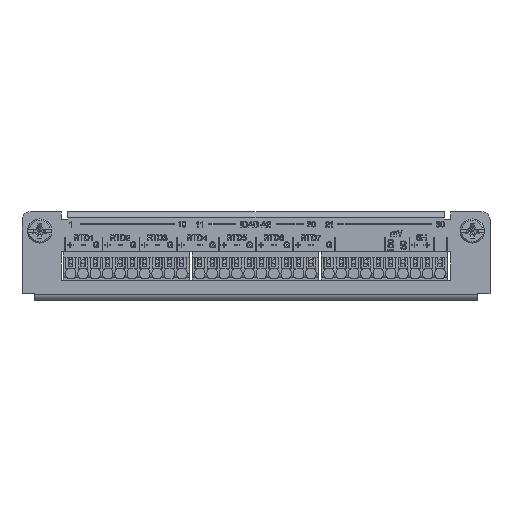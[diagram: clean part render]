
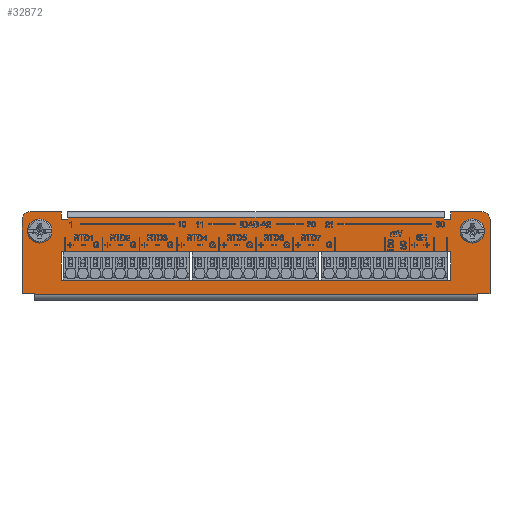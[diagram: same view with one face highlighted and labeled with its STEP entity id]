
A CAD part, top view. The second image highlights one B-rep face of the part: STEP entity #32872.
In plain terms, the highlighted planar face has unit normal (0, 0, 1) as drawn and (0, 1, 0) by its records, which use the part's own axes.
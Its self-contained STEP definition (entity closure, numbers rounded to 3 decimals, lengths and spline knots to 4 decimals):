
#1456=FACE_BOUND('',#4908,.T.);
#1457=FACE_BOUND('',#4909,.T.);
#1458=FACE_BOUND('',#4910,.T.);
#1568=PLANE('',#35038);
#3010=FACE_OUTER_BOUND('',#4907,.T.);
#4907=EDGE_LOOP('',(#23118,#23119,#23120,#23121,#23122,#23123,#23124,#23125,
#23126,#23127,#23128,#23129,#23130,#23131,#23132,#23133,#23134,#23135));
#4908=EDGE_LOOP('',(#23136,#23137,#23138,#23139));
#4909=EDGE_LOOP('',(#23140));
#4910=EDGE_LOOP('',(#23141));
#6889=LINE('',#44492,#10725);
#6895=LINE('',#44505,#10731);
#6899=LINE('',#44512,#10735);
#6907=LINE('',#44538,#10743);
#6908=LINE('',#44542,#10744);
#6932=LINE('',#44607,#10768);
#6940=LINE('',#44647,#10776);
#6942=LINE('',#44651,#10778);
#6944=LINE('',#44655,#10780);
#6946=LINE('',#44658,#10782);
#6948=LINE('',#44665,#10784);
#6950=LINE('',#44671,#10786);
#6951=LINE('',#44673,#10787);
#6952=LINE('',#44675,#10788);
#6953=LINE('',#44677,#10789);
#6954=LINE('',#44679,#10790);
#6955=LINE('',#44681,#10791);
#6956=LINE('',#44683,#10792);
#6957=LINE('',#44684,#10793);
#6958=LINE('',#44685,#10794);
#10725=VECTOR('',#36906,0.3937);
#10731=VECTOR('',#36914,0.3937);
#10735=VECTOR('',#36920,0.3937);
#10743=VECTOR('',#36940,0.3937);
#10744=VECTOR('',#36945,0.3937);
#10768=VECTOR('',#36995,0.3937);
#10776=VECTOR('',#37041,0.3937);
#10778=VECTOR('',#37045,0.3937);
#10780=VECTOR('',#37049,0.3937);
#10782=VECTOR('',#37053,0.3937);
#10784=VECTOR('',#37061,0.3937);
#10786=VECTOR('',#37067,0.3937);
#10787=VECTOR('',#37068,0.3937);
#10788=VECTOR('',#37069,0.3937);
#10789=VECTOR('',#37070,0.3937);
#10790=VECTOR('',#37071,0.3937);
#10791=VECTOR('',#37072,0.3937);
#10792=VECTOR('',#37073,0.3937);
#10793=VECTOR('',#37074,0.3937);
#10794=VECTOR('',#37075,0.3937);
#14577=CIRCLE('',#35036,0.09);
#14578=CIRCLE('',#35039,0.09);
#14579=CIRCLE('',#35040,0.095);
#14580=CIRCLE('',#35041,0.095);
#14812=VERTEX_POINT('',#44490);
#14813=VERTEX_POINT('',#44491);
#14818=VERTEX_POINT('',#44502);
#14819=VERTEX_POINT('',#44504);
#14821=VERTEX_POINT('',#44510);
#14833=VERTEX_POINT('',#44537);
#14834=VERTEX_POINT('',#44541);
#14862=VERTEX_POINT('',#44605);
#14874=VERTEX_POINT('',#44644);
#14875=VERTEX_POINT('',#44646);
#14876=VERTEX_POINT('',#44650);
#14877=VERTEX_POINT('',#44654);
#14878=VERTEX_POINT('',#44660);
#14879=VERTEX_POINT('',#44664);
#14880=VERTEX_POINT('',#44668);
#14881=VERTEX_POINT('',#44670);
#14882=VERTEX_POINT('',#44672);
#14883=VERTEX_POINT('',#44674);
#14884=VERTEX_POINT('',#44676);
#14885=VERTEX_POINT('',#44678);
#14886=VERTEX_POINT('',#44680);
#14887=VERTEX_POINT('',#44682);
#14888=VERTEX_POINT('',#44686);
#14889=VERTEX_POINT('',#44688);
#18066=EDGE_CURVE('',#14812,#14813,#6889,.T.);
#18072=EDGE_CURVE('',#14819,#14818,#6895,.T.);
#18076=EDGE_CURVE('',#14821,#14813,#6899,.T.);
#18089=EDGE_CURVE('',#14833,#14812,#6907,.T.);
#18091=EDGE_CURVE('',#14819,#14834,#6908,.T.);
#18125=EDGE_CURVE('',#14818,#14862,#6932,.T.);
#18145=EDGE_CURVE('',#14875,#14874,#6940,.T.);
#18147=EDGE_CURVE('',#14876,#14875,#6942,.T.);
#18149=EDGE_CURVE('',#14877,#14876,#6944,.T.);
#18151=EDGE_CURVE('',#14874,#14877,#6946,.T.);
#18152=EDGE_CURVE('',#14834,#14878,#14577,.T.);
#18154=EDGE_CURVE('',#14878,#14879,#6948,.T.);
#18156=EDGE_CURVE('',#14880,#14821,#14578,.T.);
#18157=EDGE_CURVE('',#14881,#14880,#6950,.T.);
#18158=EDGE_CURVE('',#14881,#14882,#6951,.T.);
#18159=EDGE_CURVE('',#14882,#14883,#6952,.T.);
#18160=EDGE_CURVE('',#14883,#14884,#6953,.T.);
#18161=EDGE_CURVE('',#14884,#14885,#6954,.T.);
#18162=EDGE_CURVE('',#14885,#14886,#6955,.T.);
#18163=EDGE_CURVE('',#14886,#14887,#6956,.T.);
#18164=EDGE_CURVE('',#14887,#14879,#6957,.T.);
#18165=EDGE_CURVE('',#14862,#14833,#6958,.T.);
#18166=EDGE_CURVE('',#14888,#14888,#14579,.T.);
#18167=EDGE_CURVE('',#14889,#14889,#14580,.T.);
#23118=ORIENTED_EDGE('',*,*,#18066,.T.);
#23119=ORIENTED_EDGE('',*,*,#18076,.F.);
#23120=ORIENTED_EDGE('',*,*,#18156,.F.);
#23121=ORIENTED_EDGE('',*,*,#18157,.F.);
#23122=ORIENTED_EDGE('',*,*,#18158,.T.);
#23123=ORIENTED_EDGE('',*,*,#18159,.T.);
#23124=ORIENTED_EDGE('',*,*,#18160,.T.);
#23125=ORIENTED_EDGE('',*,*,#18161,.T.);
#23126=ORIENTED_EDGE('',*,*,#18162,.T.);
#23127=ORIENTED_EDGE('',*,*,#18163,.T.);
#23128=ORIENTED_EDGE('',*,*,#18164,.T.);
#23129=ORIENTED_EDGE('',*,*,#18154,.F.);
#23130=ORIENTED_EDGE('',*,*,#18152,.F.);
#23131=ORIENTED_EDGE('',*,*,#18091,.F.);
#23132=ORIENTED_EDGE('',*,*,#18072,.T.);
#23133=ORIENTED_EDGE('',*,*,#18125,.T.);
#23134=ORIENTED_EDGE('',*,*,#18165,.T.);
#23135=ORIENTED_EDGE('',*,*,#18089,.T.);
#23136=ORIENTED_EDGE('',*,*,#18149,.T.);
#23137=ORIENTED_EDGE('',*,*,#18147,.T.);
#23138=ORIENTED_EDGE('',*,*,#18145,.T.);
#23139=ORIENTED_EDGE('',*,*,#18151,.T.);
#23140=ORIENTED_EDGE('',*,*,#18166,.T.);
#23141=ORIENTED_EDGE('',*,*,#18167,.T.);
#32872=ADVANCED_FACE('',(#3010,#1456,#1457,#1458),#1568,.T.);
#35036=AXIS2_PLACEMENT_3D('',#44661,#37056,#37057);
#35038=AXIS2_PLACEMENT_3D('',#44667,#37063,#37064);
#35039=AXIS2_PLACEMENT_3D('',#44669,#37065,#37066);
#35040=AXIS2_PLACEMENT_3D('',#44687,#37076,#37077);
#35041=AXIS2_PLACEMENT_3D('',#44689,#37078,#37079);
#36906=DIRECTION('',(1.,0.,0.));
#36914=DIRECTION('',(1.,0.,0.));
#36920=DIRECTION('',(0.,0.,1.));
#36940=DIRECTION('',(0.,0.,-1.));
#36945=DIRECTION('',(0.,0.,-1.));
#36995=DIRECTION('',(0.,0.,1.));
#37041=DIRECTION('',(0.,0.,1.));
#37045=DIRECTION('',(1.,0.,0.));
#37049=DIRECTION('',(0.,0.,-1.));
#37053=DIRECTION('',(-1.,0.,0.));
#37056=DIRECTION('center_axis',(0.,-1.,0.));
#37057=DIRECTION('ref_axis',(-0.707,0.,-0.707));
#37061=DIRECTION('',(1.,0.,0.));
#37063=DIRECTION('center_axis',(0.,1.,0.));
#37064=DIRECTION('ref_axis',(0.,0.,1.));
#37065=DIRECTION('center_axis',(0.,-1.,0.));
#37066=DIRECTION('ref_axis',(0.707,0.,-0.707));
#37067=DIRECTION('',(1.,0.,0.));
#37068=DIRECTION('',(0.,0.,1.));
#37069=DIRECTION('',(-1.,0.,0.));
#37070=DIRECTION('',(0.,0.,-1.));
#37071=DIRECTION('',(-1.,0.,0.));
#37072=DIRECTION('',(0.,0.,1.));
#37073=DIRECTION('',(-1.,0.,0.));
#37074=DIRECTION('',(0.,0.,-1.));
#37075=DIRECTION('',(1.,0.,0.));
#37076=DIRECTION('center_axis',(0.,-1.,0.));
#37077=DIRECTION('ref_axis',(1.,0.,0.));
#37078=DIRECTION('center_axis',(0.,-1.,0.));
#37079=DIRECTION('ref_axis',(1.,0.,0.));
#44490=CARTESIAN_POINT('',(2.475,0.0359,0.4225));
#44491=CARTESIAN_POINT('',(2.61,0.0359,0.4225));
#44492=CARTESIAN_POINT('',(1.2762,0.0359,0.4225));
#44502=CARTESIAN_POINT('',(-2.475,0.0359,0.4225));
#44504=CARTESIAN_POINT('',(-2.61,0.0359,0.4225));
#44505=CARTESIAN_POINT('',(-1.2778,0.0359,0.4225));
#44510=CARTESIAN_POINT('',(2.61,0.0359,-0.4025));
#44512=CARTESIAN_POINT('',(2.61,0.0359,-0.4925));
#44537=CARTESIAN_POINT('',(2.475,0.0359,0.4254));
#44538=CARTESIAN_POINT('',(2.475,0.0359,0.2463));
#44541=CARTESIAN_POINT('',(-2.61,0.0359,-0.4025));
#44542=CARTESIAN_POINT('',(-2.61,0.0359,0.4925));
#44605=CARTESIAN_POINT('',(-2.475,0.0359,0.4254));
#44607=CARTESIAN_POINT('',(-2.475,0.0359,0.2463));
#44644=CARTESIAN_POINT('',(2.17,0.0359,0.2725));
#44646=CARTESIAN_POINT('',(2.17,0.0359,-0.0475));
#44647=CARTESIAN_POINT('',(2.17,0.0359,-0.0237));
#44650=CARTESIAN_POINT('',(-2.17,0.0359,-0.0475));
#44651=CARTESIAN_POINT('',(-1.085,0.0359,-0.0475));
#44654=CARTESIAN_POINT('',(-2.17,0.0359,0.2725));
#44655=CARTESIAN_POINT('',(-2.17,0.0359,0.1363));
#44658=CARTESIAN_POINT('',(1.085,0.0359,0.2725));
#44660=CARTESIAN_POINT('',(-2.52,0.0359,-0.4925));
#44661=CARTESIAN_POINT('Origin',(-2.52,0.0359,-0.4025));
#44664=CARTESIAN_POINT('',(-2.17,0.0359,-0.4925));
#44665=CARTESIAN_POINT('',(-2.61,0.0359,-0.4925));
#44667=CARTESIAN_POINT('Origin',(0.,0.0359,0.));
#44668=CARTESIAN_POINT('',(2.52,0.0359,-0.4925));
#44669=CARTESIAN_POINT('Origin',(2.52,0.0359,-0.4025));
#44670=CARTESIAN_POINT('',(2.17,0.0359,-0.4925));
#44671=CARTESIAN_POINT('',(-2.61,0.0359,-0.4925));
#44672=CARTESIAN_POINT('',(2.17,0.0359,-0.4043));
#44673=CARTESIAN_POINT('',(2.17,0.0359,-0.2463));
#44674=CARTESIAN_POINT('',(2.1,0.0359,-0.4043));
#44675=CARTESIAN_POINT('',(1.085,0.0359,-0.4043));
#44676=CARTESIAN_POINT('',(2.1,0.0359,-0.4253));
#44677=CARTESIAN_POINT('',(2.1,0.0359,-0.2022));
#44678=CARTESIAN_POINT('',(-2.1,0.0359,-0.4254));
#44679=CARTESIAN_POINT('',(1.05,0.0359,-0.4254));
#44680=CARTESIAN_POINT('',(-2.1,0.0359,-0.4044));
#44681=CARTESIAN_POINT('',(-2.1,0.0359,-0.2463));
#44682=CARTESIAN_POINT('',(-2.17,0.0359,-0.4044));
#44683=CARTESIAN_POINT('',(-1.05,0.0359,-0.4044));
#44684=CARTESIAN_POINT('',(-2.17,0.0359,-0.2022));
#44685=CARTESIAN_POINT('',(-1.305,0.0359,0.4254));
#44686=CARTESIAN_POINT('',(2.317,0.0359,-0.2775));
#44687=CARTESIAN_POINT('Origin',(2.412,0.0359,-0.2775));
#44688=CARTESIAN_POINT('',(-2.507,0.0359,-0.2775));
#44689=CARTESIAN_POINT('Origin',(-2.412,0.0359,-0.2775));
